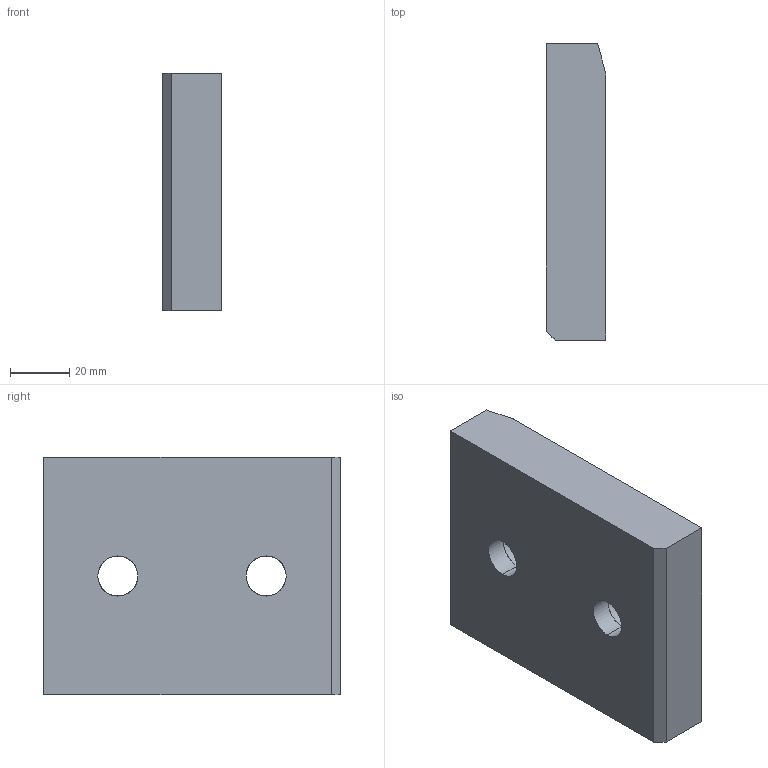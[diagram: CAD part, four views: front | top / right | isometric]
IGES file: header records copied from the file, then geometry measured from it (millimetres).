
Start section: START RECORD GO HERE.
Global section: file name: A915-80X100.igs; native system: DASSAULT SYSTEMES CATIA V5 R20 - www.3ds.com; preprocessor: CATIA Version 5 Release 20 ; author: Utente; organization: NB04-ASUS; date: 20200407.213850; units: millimetre
Bounding box: 20 x 100 x 80 mm (x, y, z)
Surface area: 24337.9 mm2 (no closed solid volume)
Topology: 0 solids, 0 shells, 23 faces, 106 edges, 106 vertices
Faces by surface type: revolution 13, extrusion 10
